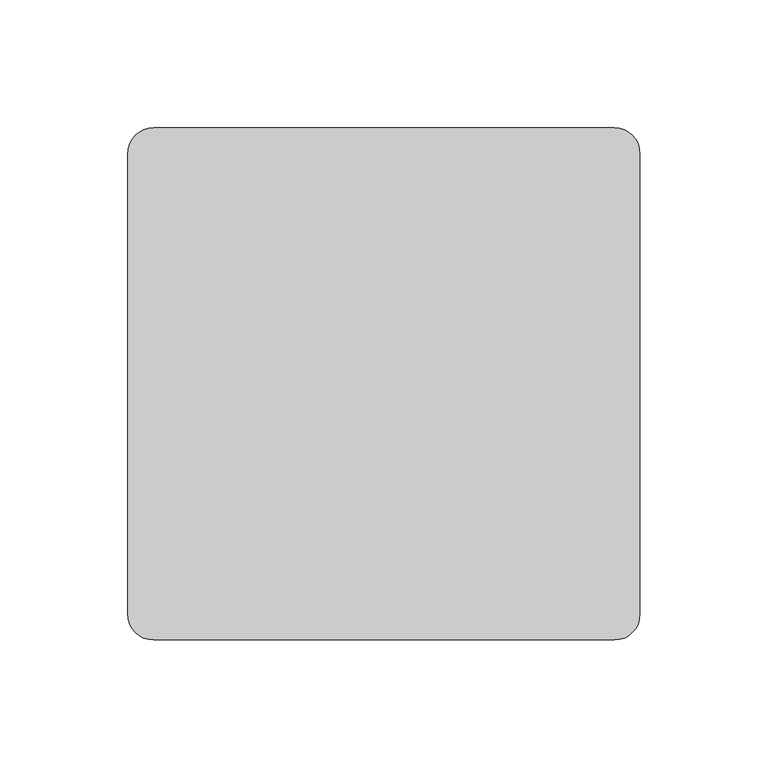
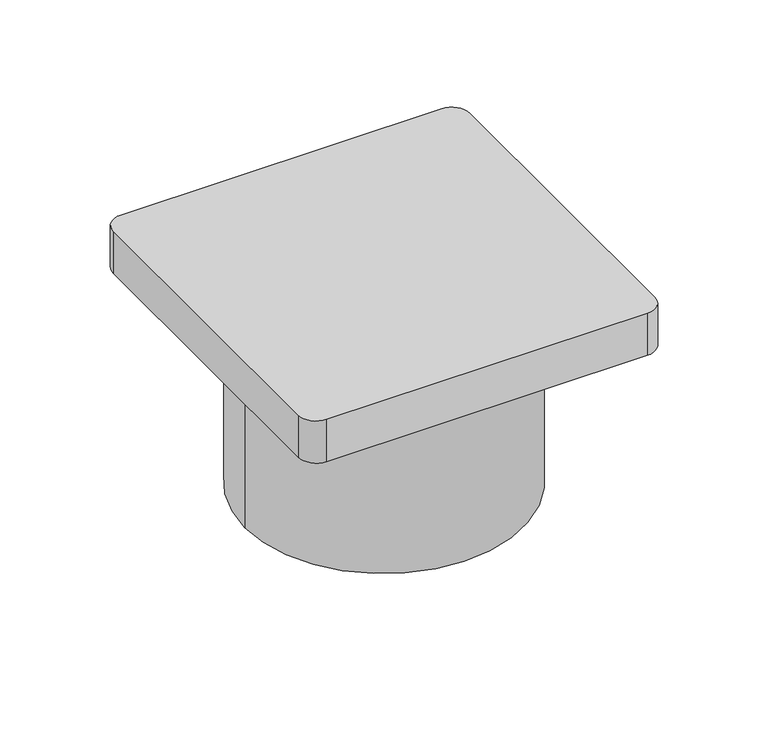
"""IFC4 building model written with IfcOpenShell, lengths in millimetres: proxy geometry, Extractor Decor : Extractor Decor."""

from ifc_helpers import new_model, si_unit, point, frame, frame_2d, origin, origin_with_axes, origin_2d, place, context, project, spatial, polyline, circle_curve, trimmed, segment, composite_curve, outline, extrude, source, transform, mapped, element, save


def electrical_equipment_c3a30a10(model_context):
    return source(origin(), model_context, "Body", "SweptSolid", [
        extrude(outline(composite_curve([segment(trimmed(circle_curve(origin_2d(), 78.0), [point((78.0, 0.0))], [point((-78.0, 0.0))], False, "CARTESIAN"), True, "CONTINUOUS"), segment(trimmed(circle_curve(origin_2d(), 78.0), [point((-78.0, 0.0))], [point((78.0, 0.0))], False, "CARTESIAN"), True, "CONTINUOUS")], self_intersect=False), holes=[composite_curve([segment(trimmed(circle_curve(origin_2d(), 75.0), [point((75.0, 0.0))], [point((-75.0, 0.0))], True, "CARTESIAN"), True, "CONTINUOUS"), segment(trimmed(circle_curve(origin_2d(), 75.0), [point((-75.0, 0.0))], [point((75.0, 0.0))], True, "CARTESIAN"), True, "CONTINUOUS")], self_intersect=False)]), frame((0.0, 0.0, -104.0), z_axis=(0.0, 0.0, 1.0), x_axis=(1.0, 0.0, 0.0)), (0.0, 0.0, 1.0), 104.0),
        extrude(outline(composite_curve([segment(trimmed(circle_curve(frame_2d((90.0, 90.0)), 10.0), [point((90.0, 100.0))], [point((100.0, 90.0))], False, "CARTESIAN"), True, "CONTINUOUS"), segment(polyline([(100.0, 90.0), (100.0, -90.0)]), True, "CONTINUOUS"), segment(trimmed(circle_curve(frame_2d((90.0, -90.0)), 10.0), [point((100.0, -90.0))], [point((90.0, -100.0))], False, "CARTESIAN"), True, "CONTINUOUS"), segment(polyline([(90.0, -100.0), (-90.0, -100.0)]), True, "CONTINUOUS"), segment(trimmed(circle_curve(frame_2d((-90.0, -90.0)), 10.0), [point((-90.0, -100.0))], [point((-100.0, -90.0))], False, "CARTESIAN"), True, "CONTINUOUS"), segment(polyline([(-100.0, -90.0), (-100.0, 90.0)]), True, "CONTINUOUS"), segment(trimmed(circle_curve(frame_2d((-90.0, 90.0)), 10.0), [point((-100.0, 90.0))], [point((-90.0, 100.0))], False, "CARTESIAN"), True, "CONTINUOUS"), segment(polyline([(-90.0, 100.0), (90.0, 100.0)]), True, "CONTINUOUS")], self_intersect=False)), origin_with_axes(), (0.0, 0.0, 1.0), 25.0),
    ])


if __name__ == "__main__":
    model = new_model("IFC4")
    model_context = context("Model", 3, world=origin())
    ifc_project = project(units=[si_unit("LENGTHUNIT", "METRE", prefix="MILLI")], contexts=[model_context])
    site = spatial("IfcSite", under=ifc_project)
    building = spatial("IfcBuilding", under=site)
    placement = place(None, origin())
    electrical_equipment_shape = electrical_equipment_c3a30a10(model_context)
    element("IfcBuildingElementProxy", 1, Name="Extractor Decor : Extractor Decor", ObjectType="Extractor Decor : Extractor Decor", at=placement, inside=building, context=model_context, shape_type="MappedRepresentation", body=[
        mapped(electrical_equipment_shape, transform((0.0, 0.0, 0.0), x_axis=(1.0, 0.0, 0.0), y_axis=(0.0, 1.0, 0.0), z_axis=(0.0, 0.0, 1.0))),
    ])
    save(model, "model.ifc")
